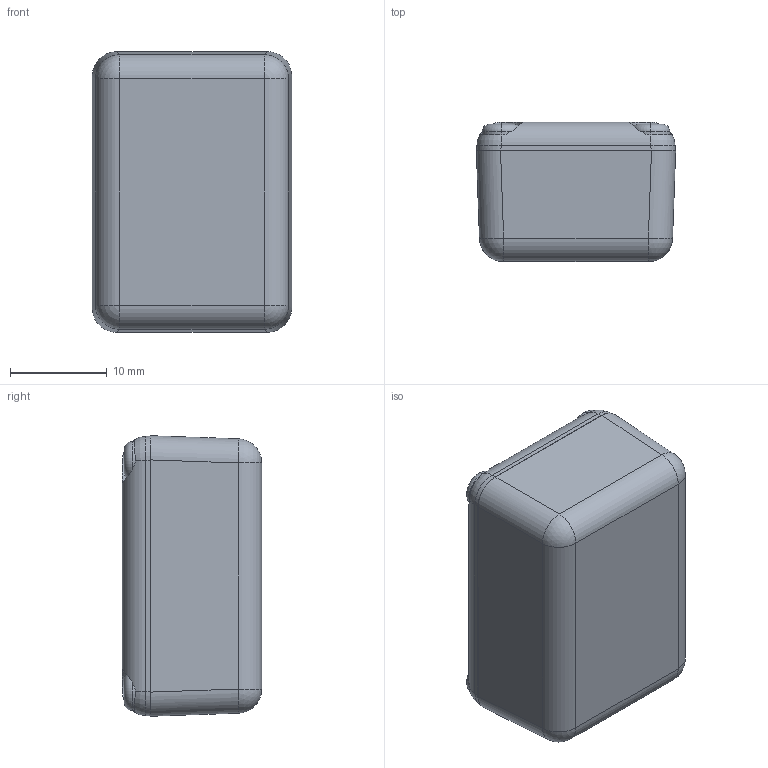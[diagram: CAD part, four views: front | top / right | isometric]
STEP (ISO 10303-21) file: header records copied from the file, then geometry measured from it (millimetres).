
FILE_DESCRIPTION (( 'STEP AP214' ), '1' );
FILE_NAME ('BMC 204.STEP', '2021-03-29T12:12:17', ( '' ), ( '' ), 'SwSTEP 2.0', 'SolidWorks 2016', '' );
FILE_SCHEMA (( 'AUTOMOTIVE_DESIGN' ));
Length unit declared in the file: millimetre
Products named in the file (4): BMC 204; BMC Screw; BMC-204 Bottom; BMC 204 Top
Assembly tree (6 placements, depth 2):
  BMC 204
    BMC-204 Bottom
    BMC 204 Top
    BMC Screw  x4
Bounding box: 20.6 x 14.4 x 29 mm (x, y, z)
Volume: 3443.5 mm3; surface area: 5303.5 mm2
Topology: 6 solids, 6 shells, 911 faces, 2416 edges, 1598 vertices
Faces by surface type: plane 482, bspline 317, cylinder 74, cone 22, sphere 8, torus 8
Entity records: 39772 total; most frequent: CARTESIAN_POINT 21772, ORIENTED_EDGE 4260, DIRECTION 2594, EDGE_CURVE 2130, VERTEX_POINT 1412, LINE 1318, VECTOR 1318, EDGE_LOOP 884
